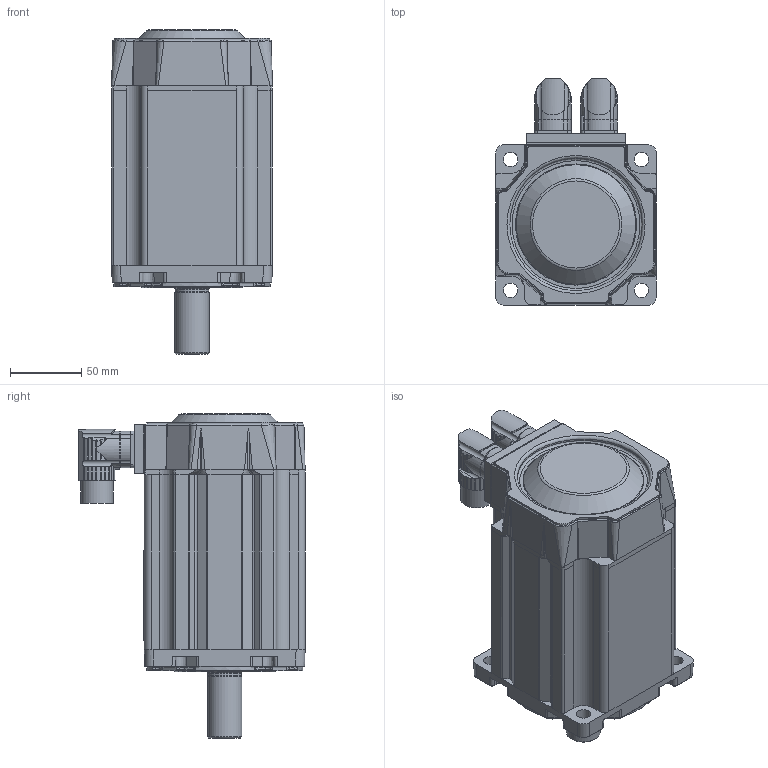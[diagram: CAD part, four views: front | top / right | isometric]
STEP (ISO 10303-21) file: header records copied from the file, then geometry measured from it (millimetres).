
FILE_DESCRIPTION((''),'2;1');
FILE_NAME('C:\Documents and Settings\jevans\My Documents\Engineering Projects\MPJ\MPJ1152XXX_NPSN.stp','2007-05-02T10:26:41',('jevans'),(''),'Autodesk Inventor 11','Autodesk Inventor 11','');
FILE_SCHEMA(('AUTOMOTIVE_DESIGN { 1 0 10303 214 1 1 1 1 }'));
Length unit declared in the file: inch
Products named in the file (3): MPJ1152XXX_NPSN; MPP115_MOTOR_1; MPP115_MOTOR_2
Assembly tree (2 placements, depth 2):
  MPJ1152XXX_NPSN
    MPP115_MOTOR_1
    MPP115_MOTOR_2
Bounding box: 113.03 x 159.03 x 227.79 mm (x, y, z)
Volume: 1933411.2 mm3; surface area: 156044.9 mm2
Topology: 2 solids, 2 shells, 1012 faces, 2580 edges, 1622 vertices
Faces by surface type: cylinder 441, plane 307, bspline 158, cone 86, torus 18, sphere 2
Full cylindrical faces by diameter (mm): 0.178 x1, 1.143 x17, 2.032 x6, 2.794 x2, 6.35 x8, 6.655 x1, 10.185 x4, 19.05 x2, 19.685 x2, 22.86 x2, 23.647 x1, 24.003 x1, 24.994 x2, 31.75 x1, 47.549 x1, 54.61 x1, 61.468 x1, 62.001 x1, 62.027 x1, 62.268 x1, 65.634 x1, 69.85 x1, 71.12 x1, 93.066 x1, 109.995 x1
Entity records: 38523 total; most frequent: CARTESIAN_POINT 15102, ORIENTED_EDGE 4942, DIRECTION 4675, EDGE_CURVE 2471, AXIS2_PLACEMENT_3D 1811, VERTEX_POINT 1598, EDGE_LOOP 1163, VECTOR 1053
